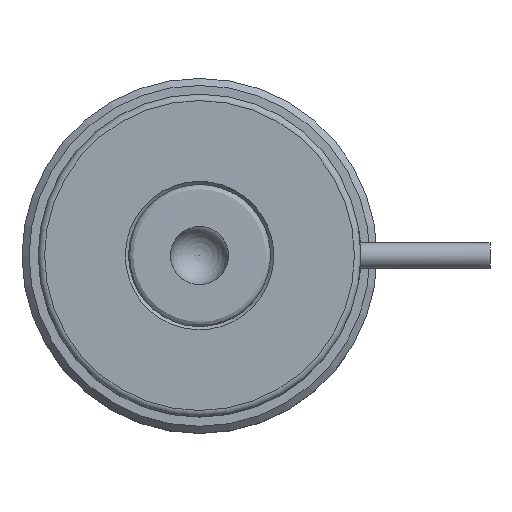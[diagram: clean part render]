
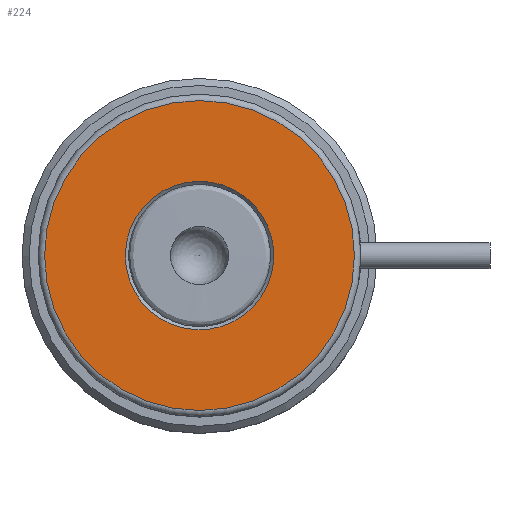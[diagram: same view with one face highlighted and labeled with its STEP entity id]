
A CAD part, top view. The second image highlights one B-rep face of the part: STEP entity #224.
In plain terms, the highlighted planar face has unit normal (0, 0, 1).
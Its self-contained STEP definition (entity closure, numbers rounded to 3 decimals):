
#224=ADVANCED_FACE('',(#528,#529),#530,.F.);
#528=FACE_BOUND('',#899,.T.);
#529=FACE_OUTER_BOUND('',#900,.T.);
#530=PLANE('',#901);
#899=EDGE_LOOP('',(#1434));
#900=EDGE_LOOP('',(#1435));
#901=AXIS2_PLACEMENT_3D('',#1436,#1437,#1438);
#1434=ORIENTED_EDGE('',*,*,#1817,.T.);
#1435=ORIENTED_EDGE('',*,*,#1815,.F.);
#1436=CARTESIAN_POINT('',(-24.0,0.0,30.));
#1437=DIRECTION('',(-0.0,0.,-1.0));
#1438=DIRECTION('',(0.0,1.0,0.));
#1815=EDGE_CURVE('',#2057,#2057,#2058,.T.);
#1817=EDGE_CURVE('',#2060,#2060,#2061,.T.);
#2057=VERTEX_POINT('',#2478);
#2058=CIRCLE('',#2479,24.0);
#2060=VERTEX_POINT('',#2481);
#2061=CIRCLE('',#2482,11.5);
#2478=CARTESIAN_POINT('',(0.0,24.0,30.));
#2479=AXIS2_PLACEMENT_3D('',#2798,#2799,#2800);
#2481=CARTESIAN_POINT('',(0.0,11.5,30.));
#2482=AXIS2_PLACEMENT_3D('',#2801,#2802,#2803);
#2798=CARTESIAN_POINT('',(0.0,0.0,30.));
#2799=DIRECTION('',(-0.0,0.,-1.0));
#2800=DIRECTION('',(0.0,1.0,0.));
#2801=CARTESIAN_POINT('',(0.0,0.0,30.));
#2802=DIRECTION('',(-0.0,0.,-1.0));
#2803=DIRECTION('',(0.0,1.0,0.));
